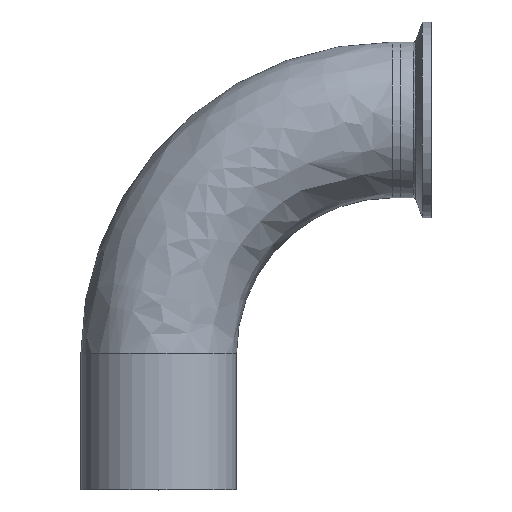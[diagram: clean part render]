
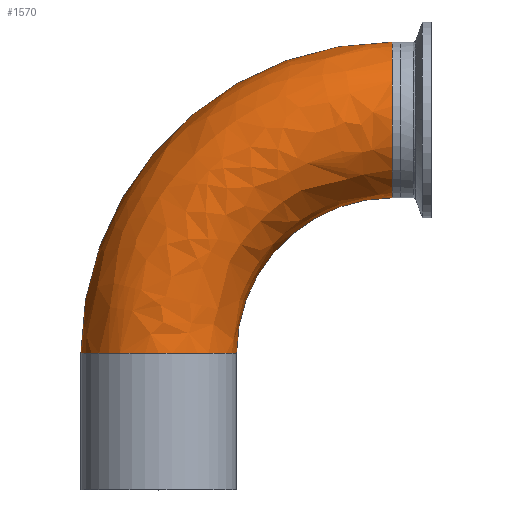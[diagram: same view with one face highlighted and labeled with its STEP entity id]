
A CAD part, top view. The second image highlights one B-rep face of the part: STEP entity #1570.
In plain terms, the highlighted free-form (B-spline) face has degree [3, 3] with [4, 4] control points.
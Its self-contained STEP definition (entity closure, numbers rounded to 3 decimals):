
#18 = CARTESIAN_POINT ( 'NONE',  ( 76.2, 95.3, 50.8 ) ) ;
#51 = EDGE_CURVE ( 'NONE', #1082, #1460, #603, .T. ) ;
#93 = CARTESIAN_POINT ( 'NONE',  ( 76.2, 146.1, 0. ) ) ;
#106 = CARTESIAN_POINT ( 'NONE',  ( 76.2, 146.1, 0. ) ) ;
#258 = CIRCLE ( 'NONE', #862, 50.8 ) ;
#267 = VERTEX_POINT ( 'NONE', #460 ) ;
#270 = CARTESIAN_POINT ( 'NONE',  ( -25.4, 44.5, 50.8 ) ) ;
#286 = CARTESIAN_POINT ( 'NONE',  ( -25.4, 44.5, 0. ) ) ;
#318 = CARTESIAN_POINT ( 'NONE',  ( 76.2, 44.5, 0. ) ) ;
#338 = DIRECTION ( 'NONE',  ( 0., 0., -1. ) ) ;
#341 = CARTESIAN_POINT ( 'NONE',  ( 25.4, 44.5, 0. ) ) ;
#352 = DIRECTION ( 'NONE',  ( -1., 0., 0. ) ) ;
#389 = CARTESIAN_POINT ( 'NONE',  ( 16.684, 146.1, 0. ) ) ;
#460 = CARTESIAN_POINT ( 'NONE',  ( 25.4, 44.5, 0. ) ) ;
#487 = CARTESIAN_POINT ( 'NONE',  ( 76.2, 120.7, 0. ) ) ;
#552 = EDGE_LOOP ( 'NONE', ( #664, #1800, #756, #1207 ) ) ;
#568 = EDGE_CURVE ( 'NONE', #267, #1470, #258, .T. ) ;
#603 = CIRCLE ( 'NONE', #1509, 101.6 ) ;
#639 = DIRECTION ( 'NONE',  ( -1., 0., 0. ) ) ;
#645 = EDGE_CURVE ( 'NONE', #1470, #1460, #1307, .T. ) ;
#649 = DIRECTION ( 'NONE',  ( 0., 1., 0. ) ) ;
#664 = ORIENTED_EDGE ( 'NONE', *, *, #817, .T. ) ;
#701 = CARTESIAN_POINT ( 'NONE',  ( -25.4, 44.5, 0. ) ) ;
#756 = ORIENTED_EDGE ( 'NONE', *, *, #645, .T. ) ;
#788 = CARTESIAN_POINT ( 'NONE',  ( 0., 44.5, 0. ) ) ;
#817 = EDGE_CURVE ( 'NONE', #1082, #267, #1285, .T. ) ;
#844 = AXIS2_PLACEMENT_3D ( 'NONE', #788, #649, #639 ) ;
#860 = DIRECTION ( 'NONE',  ( -1., 0., 0. ) ) ;
#862 = AXIS2_PLACEMENT_3D ( 'NONE', #1187, #1200, #1210 ) ;
#948 = CARTESIAN_POINT ( 'NONE',  ( 46.442, 95.3, 50.8 ) ) ;
#986 = DIRECTION ( 'NONE',  ( 0., 1., 0. ) ) ;
#1013 = FACE_OUTER_BOUND ( 'NONE', #552, .T. ) ;
#1082 = VERTEX_POINT ( 'NONE', #286 ) ;
#1187 = CARTESIAN_POINT ( 'NONE',  ( 76.2, 44.5, 0. ) ) ;
#1200 = DIRECTION ( 'NONE',  ( 0., 0., -1. ) ) ;
#1207 = ORIENTED_EDGE ( 'NONE', *, *, #51, .F. ) ;
#1210 = DIRECTION ( 'NONE',  ( -1., 0., 0. ) ) ;
#1220 = CARTESIAN_POINT ( 'NONE',  ( 25.4, 74.258, 50.8 ) ) ;
#1228 = CARTESIAN_POINT ( 'NONE',  ( 46.442, 95.3, 0. ) ) ;
#1233 = CARTESIAN_POINT ( 'NONE',  ( 25.4, 74.258, 0. ) ) ;
#1285 = CIRCLE ( 'NONE', #844, 25.4 ) ;
#1302 = CARTESIAN_POINT ( 'NONE',  ( -25.4, 104.016, 0. ) ) ;
#1307 = CIRCLE ( 'NONE', #1625, 25.4 ) ;
#1395 = CARTESIAN_POINT ( 'NONE',  ( 25.4, 44.5, 50.8 ) ) ;
#1419 =( BOUNDED_SURFACE ( )  B_SPLINE_SURFACE ( 3, 3, ( 
 ( #701, #1302, #389, #106 ),
 ( #270, #1725, #1556, #1543 ),
 ( #1395, #1220, #948, #18 ),
 ( #341, #1233, #1228, #1854 ) ),
 .UNSPECIFIED., .F., .F., .F. ) 
 B_SPLINE_SURFACE_WITH_KNOTS ( ( 4, 4 ),
 ( 4, 4 ),
 ( 0., 1. ),
 ( 0., 1. ),
 .UNSPECIFIED. ) 
 GEOMETRIC_REPRESENTATION_ITEM ( )  RATIONAL_B_SPLINE_SURFACE ( (
 ( 1., 0.805, 0.805, 1.),
 ( 0.333, 0.268, 0.268, 0.333),
 ( 0.333, 0.268, 0.268, 0.333),
 ( 1., 0.805, 0.805, 1.) ) ) 
 REPRESENTATION_ITEM ( '' )  SURFACE ( )  );
#1460 = VERTEX_POINT ( 'NONE', #93 ) ;
#1470 = VERTEX_POINT ( 'NONE', #1759 ) ;
#1509 = AXIS2_PLACEMENT_3D ( 'NONE', #318, #338, #352 ) ;
#1543 = CARTESIAN_POINT ( 'NONE',  ( 76.2, 146.1, 50.8 ) ) ;
#1556 = CARTESIAN_POINT ( 'NONE',  ( 16.684, 146.1, 50.8 ) ) ;
#1570 = ADVANCED_FACE ( 'NONE', ( #1013 ), #1419, .T. ) ;
#1625 = AXIS2_PLACEMENT_3D ( 'NONE', #487, #860, #986 ) ;
#1725 = CARTESIAN_POINT ( 'NONE',  ( -25.4, 104.016, 50.8 ) ) ;
#1759 = CARTESIAN_POINT ( 'NONE',  ( 76.2, 95.3, 0. ) ) ;
#1800 = ORIENTED_EDGE ( 'NONE', *, *, #568, .T. ) ;
#1854 = CARTESIAN_POINT ( 'NONE',  ( 76.2, 95.3, 0. ) ) ;
